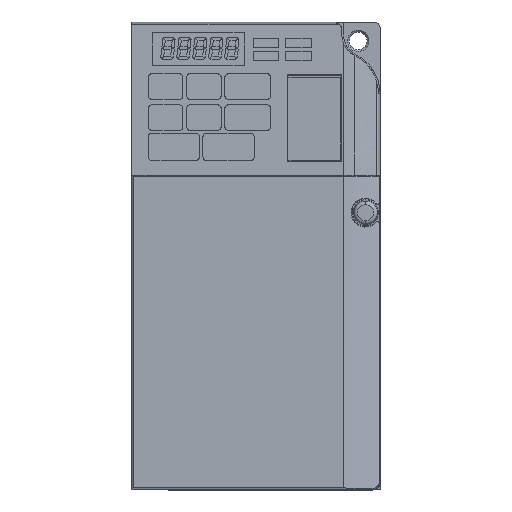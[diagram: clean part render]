
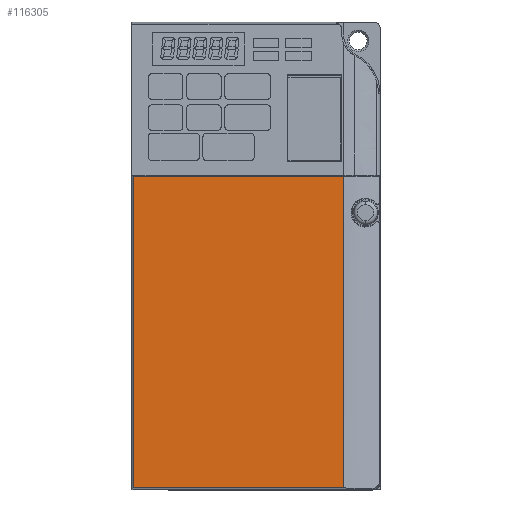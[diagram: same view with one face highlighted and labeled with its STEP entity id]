
A CAD part, top view. The second image highlights one B-rep face of the part: STEP entity #116305.
In plain terms, the highlighted planar face has unit normal (0, 0, 1).
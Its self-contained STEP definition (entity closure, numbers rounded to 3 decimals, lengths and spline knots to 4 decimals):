
#115212=DIRECTION('',(1.,0.,0.));
#115213=VECTOR('',#115212,2.267);
#115214=CARTESIAN_POINT('',(0.0952,-0.7315,
5.5118));
#115215=LINE('',#115214,#115213);
#115428=DIRECTION('',(0.,1.,0.));
#115429=VECTOR('',#115428,3.3614);
#115430=CARTESIAN_POINT('',(2.3622,-0.7315,
5.5118));
#115431=LINE('',#115430,#115429);
#115480=DIRECTION('',(0.,1.,0.));
#115481=VECTOR('',#115480,3.3614);
#115482=CARTESIAN_POINT('',(0.0952,-0.7315,
5.5118));
#115483=LINE('',#115482,#115481);
#115489=DIRECTION('',(-1.,0.,0.));
#115490=VECTOR('',#115489,2.267);
#115491=CARTESIAN_POINT('',(2.3622,2.6299,
5.5118));
#115492=LINE('',#115491,#115490);
#115840=CARTESIAN_POINT('',(0.0952,-0.7315,
5.5118));
#115841=VERTEX_POINT('',#115840);
#115842=CARTESIAN_POINT('',(2.3622,-0.7315,
5.5118));
#115843=VERTEX_POINT('',#115842);
#115865=CARTESIAN_POINT('',(0.0952,2.6299,
5.5118));
#115866=VERTEX_POINT('',#115865);
#115913=CARTESIAN_POINT('',(2.3622,2.6299,
5.5118));
#115914=VERTEX_POINT('',#115913);
#116293=CARTESIAN_POINT('',(0.0787,-0.748,
5.5118));
#116294=DIRECTION('',(0.,0.,1.));
#116295=DIRECTION('',(1.,0.,0.));
#116296=AXIS2_PLACEMENT_3D('',#116293,#116294,#116295);
#116297=PLANE('',#116296);
#116298=ORIENTED_EDGE('',*,*,#116278,.F.);
#116299=ORIENTED_EDGE('',*,*,#116021,.F.);
#116300=ORIENTED_EDGE('',*,*,#116072,.T.);
#116302=ORIENTED_EDGE('',*,*,#116301,.F.);
#116303=EDGE_LOOP('',(#116298,#116299,#116300,#116302));
#116304=FACE_OUTER_BOUND('',#116303,.F.);
#116305=ADVANCED_FACE('',(#116304),#116297,.T.);
#116021=EDGE_CURVE('',#115841,#115843,#115215,.T.);
#116072=EDGE_CURVE('',#115841,#115866,#115483,.T.);
#116278=EDGE_CURVE('',#115843,#115914,#115431,.T.);
#116301=EDGE_CURVE('',#115914,#115866,#115492,.T.);
